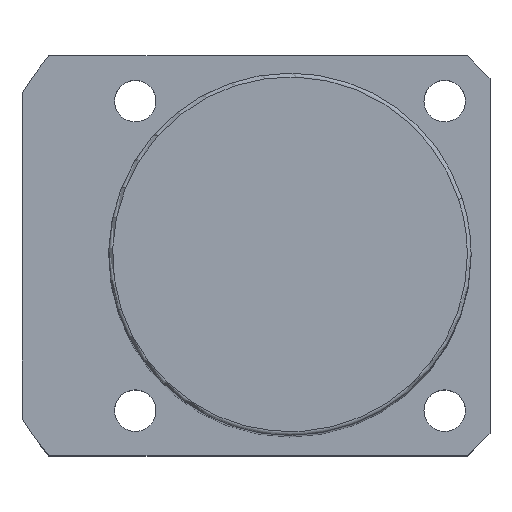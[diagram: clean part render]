
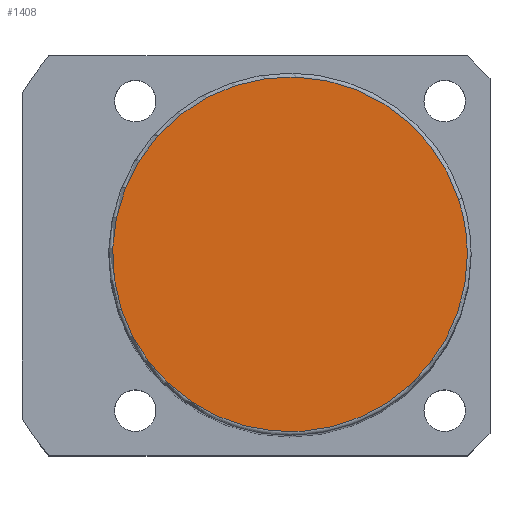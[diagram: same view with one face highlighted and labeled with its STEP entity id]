
A CAD part, top view. The second image highlights one B-rep face of the part: STEP entity #1408.
In plain terms, the highlighted planar face has unit normal (0, 0, 1).
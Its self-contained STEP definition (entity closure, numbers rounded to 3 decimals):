
#1341=CARTESIAN_POINT('',(22.35,7.262,129.0));
#1342=VERTEX_POINT('',#1341);
#1360=CARTESIAN_POINT('',(-22.35,-7.262,129.0));
#1361=VERTEX_POINT('',#1360);
#1369=CARTESIAN_POINT('',(0.0,0.0,129.0));
#1370=DIRECTION('',(0.0,0.0,1.0));
#1371=DIRECTION('',(1.0,0.0,0.0));
#1372=AXIS2_PLACEMENT_3D('',#1369,#1370,#1371);
#1373=CIRCLE('',#1372,23.5);
#1374=EDGE_CURVE('no 3422',#1342,#1361,#1373,.T.);
#1384=CARTESIAN_POINT('',(23.5,0.0,129.0));
#1385=VERTEX_POINT('',#1384);
#1386=CARTESIAN_POINT('',(0.0,0.0,129.0));
#1387=DIRECTION('',(0.0,0.0,1.0));
#1388=DIRECTION('',(1.0,0.0,0.0));
#1389=AXIS2_PLACEMENT_3D('',#1386,#1387,#1388);
#1390=CIRCLE('',#1389,23.5);
#1391=EDGE_CURVE('no 3431',#1385,#1342,#1390,.T.);
#1392=ORIENTED_EDGE('',*,*,#1391,.T.);
#1393=ORIENTED_EDGE('',*,*,#1374,.T.);
#1394=CARTESIAN_POINT('',(0.0,0.0,129.0));
#1395=DIRECTION('',(0.0,0.0,1.0));
#1396=DIRECTION('',(1.0,0.0,0.0));
#1397=AXIS2_PLACEMENT_3D('',#1394,#1395,#1396);
#1398=CIRCLE('',#1397,23.5);
#1399=EDGE_CURVE('no 3437',#1361,#1385,#1398,.T.);
#1400=ORIENTED_EDGE('',*,*,#1399,.T.);
#1401=EDGE_LOOP('',(#1392,#1393,#1400));
#1402=FACE_OUTER_BOUND('',#1401,.T.);
#1403=CARTESIAN_POINT('',(0.0,0.0,129.0));
#1404=DIRECTION('',(0.0,0.0,1.0));
#1405=DIRECTION('',(1.0,0.0,0.0));
#1406=AXIS2_PLACEMENT_3D('',#1403,#1404,#1405);
#1407=PLANE('',#1406);
#1408=ADVANCED_FACE('no 3424',(#1402),#1407,.T.);
